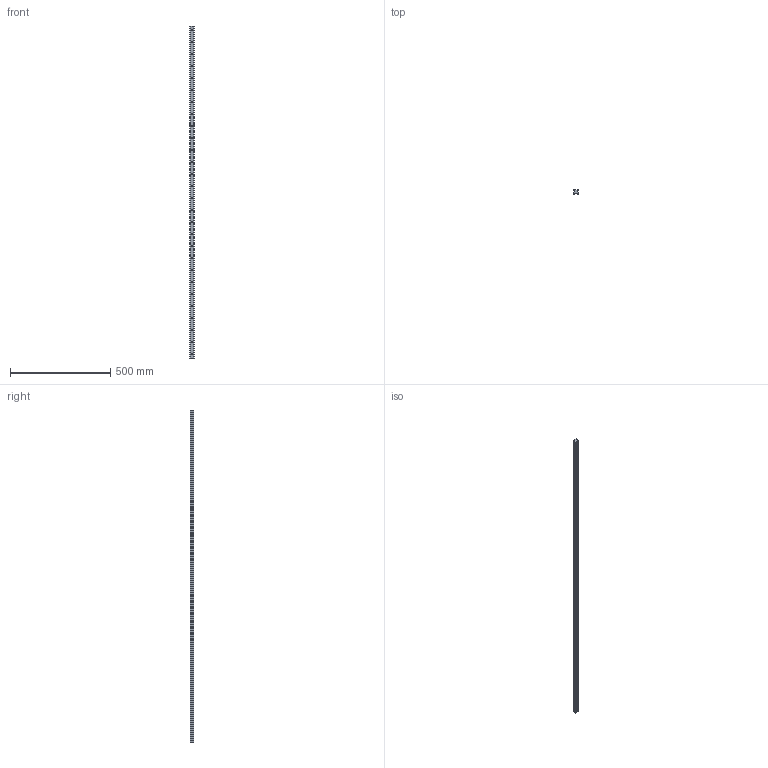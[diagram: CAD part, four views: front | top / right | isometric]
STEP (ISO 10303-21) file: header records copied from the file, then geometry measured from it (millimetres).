
FILE_DESCRIPTION (( 'STEP AP203' ), '1' );
FILE_NAME ('L1016.BRF25-1660.step', '2019-06-13T08:39:08', ( '' ), ( '' ), 'SwSTEP 2.0', 'SolidWorks 2017', '' );
FILE_SCHEMA (( 'CONFIG_CONTROL_DESIGN' ));
Length unit declared in the file: millimetre
Products named in the file (1): L1016.BRF25-1660
Bounding box: 23 x 19.2 x 1660 mm (x, y, z)
Volume: 633735.3 mm3; surface area: 153141 mm2
Topology: 1 solids, 1 shells, 222 faces, 520 edges, 300 vertices
Faces by surface type: cylinder 116, cone 56, plane 50
Entity records: 6053 total; most frequent: DIRECTION 1142, CARTESIAN_POINT 987, ORIENTED_EDGE 928, EDGE_CURVE 464, AXIS2_PLACEMENT_3D 455, VERTEX_POINT 300, EDGE_LOOP 278, VECTOR 232
